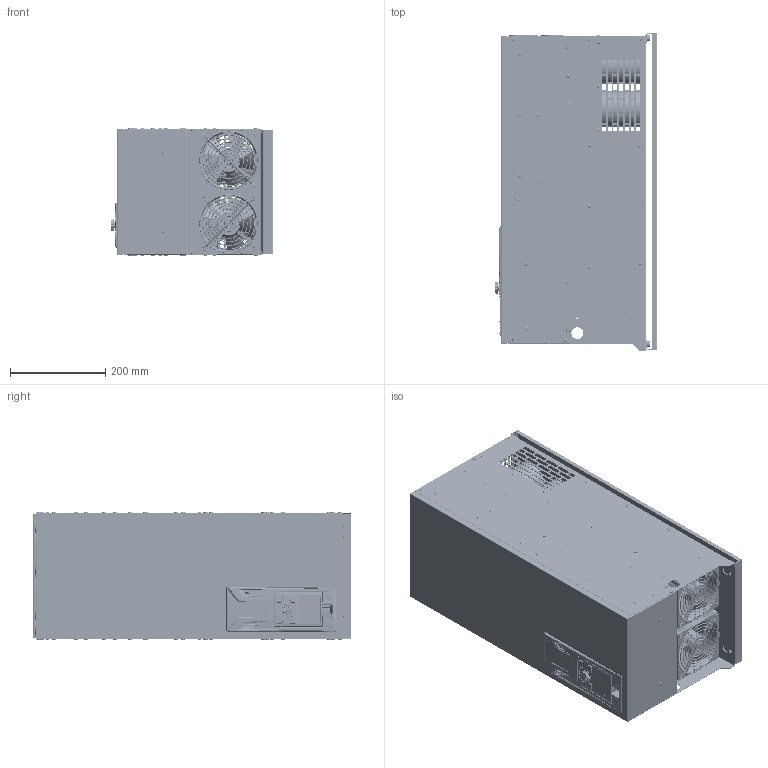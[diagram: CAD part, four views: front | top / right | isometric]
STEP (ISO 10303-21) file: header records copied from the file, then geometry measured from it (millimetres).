
FILE_DESCRIPTION((''),'2;1');
FILE_NAME('700-380-_55-75__ASM','2026-05-06T15:59:06',('23373'),(''),'CREO PARAMETRIC BY PTC INC, 2021023','CREO PARAMETRIC BY PTC INC, 2021023','');
FILE_SCHEMA(('AUTOMOTIVE_DESIGN { 1 0 10303 214 1 1 1 1 }'));
Products named in the file (163): CA700-55KW-SR-01_15; CA700-55KW-SR_ASM_6_ASM; CA700-55KW-BJ-01-01_27; CA700-55KW-BJ-01-01_ASM_23_ASM; CA700-55KW-BJ-01-02_20; S-M4-ZC_42; S-M6-ZC_42; CA700-55KW-BJ-01-02_ASM_12_ASM; CA700-55KW-BJ-01-03_18; SO-3R5M4-16-ZC_49; SO-3R5M3-26-ZC_49; SO-3R5M3-22-ZC_49; SO-M5-16-ZC_49; CA700-55KW-BJ-01-03_ASM_16_ASM; CA700-55KW-BJ-01-04_16; CA700-55KW-BJ-01-04_ASM_7_ASM; CA700-55KW-BJ-01-05_16; CA700-55KW-BJ-01-05_ASM_11_ASM; CA700-55KW-BJ-01-06_15; CA700-55KW-BJ-01-06_ASM_11_ASM; CA700-55KW-BJ-01-07_10; CA700-55KW-BJ-01-07_ASM_3_ASM; CA700-55KW-BJ-01-08_17; CA700-55KW-BJ-01-08_ASM_18_ASM; CA700-55KW-BJ-01-09_18; CA700-55KW-BJ-01-09_ASM_18_ASM; CA700-45KW-BJ-01-07_2; CA700-30KW-BJ-01-06_2; D4X8-GB12618-1990_3; CA700-55KW-BJ-01_ASM_32_ASM; CA700-55KW-BJ-02_20; S-M5-ZC_42; CA700-55KW-BJ-02_ASM_11_ASM; CA700-55KW-BJ-03_27; CA700-55KW-BJ-03_ASM_16_ASM; CA700-55KW-BJ-04_23; SO-3R5M3-6-ZC_49; CA700-55KW-BJ-04_ASM_17_ASM; CA700-55KW-BJ-05_9; CA700-55KW-BJ-05_ASM_9_ASM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
Assembly tree (384 placements, depth 9):
  700-380-_55-75__ASM
    0CA700-55KW_ASM_49_ASM
      CA700-55KW-SR_ASM_6_ASM
        CA700-55KW-SR-01_15
      CA700-55KW-BJ_ASM_43_ASM
        CA700-55KW-BJ-01_ASM_32_ASM
          CA700-55KW-BJ-01-01_ASM_23_ASM
            CA700-55KW-BJ-01-01_27
          CA700-55KW-BJ-01-02_ASM_12_ASM
            CA700-55KW-BJ-01-02_20
            S-M4-ZC_42  x2
            S-M6-ZC_42  x4
          CA700-55KW-BJ-01-03_ASM_16_ASM
            CA700-55KW-BJ-01-03_18
            S-M4-ZC_42  x12
            SO-3R5M4-16-ZC_49  x6
            SO-3R5M3-26-ZC_49  x3
            SO-3R5M3-22-ZC_49
            SO-M5-16-ZC_49  x2
          CA700-55KW-BJ-01-04_ASM_7_ASM  x2
            CA700-55KW-BJ-01-04_16
            S-M4-ZC_42
          CA700-55KW-BJ-01-05_ASM_11_ASM
            CA700-55KW-BJ-01-05_16
            S-M4-ZC_42  x3
          CA700-55KW-BJ-01-06_ASM_11_ASM
            CA700-55KW-BJ-01-06_15
            S-M4-ZC_42  x3
          CA700-55KW-BJ-01-07_ASM_3_ASM
            CA700-55KW-BJ-01-07_10
          CA700-55KW-BJ-01-08_ASM_18_ASM
            CA700-55KW-BJ-01-08_17
            S-M4-ZC_42  x3
          CA700-55KW-BJ-01-09_ASM_18_ASM
            CA700-55KW-BJ-01-09_18
            S-M4-ZC_42  x3
          CA700-45KW-BJ-01-07_2  x4
          CA700-30KW-BJ-01-06_2
          D4X8-GB12618-1990_3  x65
        CA700-55KW-BJ-02_ASM_11_ASM
          CA700-55KW-BJ-02_20
          S-M5-ZC_42  x8
          S-M6-ZC_42  x2
        CA700-55KW-BJ-03_ASM_16_ASM
          CA700-55KW-BJ-03_27
          S-M5-ZC_42  x12
          S-M6-ZC_42  x2
          S-M4-ZC_42
        CA700-55KW-BJ-04_ASM_17_ASM
          CA700-55KW-BJ-04_23
          S-M4-ZC_42
          SO-3R5M3-6-ZC_49  x3
        CA700-55KW-BJ-05_ASM_9_ASM
          CA700-55KW-BJ-05_9
          S-M4-ZC_42  x12
        CA700-55KW-BJ-06_ASM_6_ASM
          CA700-55KW-BJ-06_4
          S-M5-ZC_42  x4
        CA700-55KW-BJ-07_ASM_12_ASM
          CA700-55KW-BJ-07_20
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Bounding box: 339.73 x 667.7 x 268.4 mm (x, y, z)
Volume: 8749337.9 mm3; surface area: 6733324 mm2
Topology: 338 solids, 377 shells, 38618 faces, 105003 edges, 68700 vertices
Faces by surface type: plane 30785, cylinder 5358, cone 997, bspline 758, torus 296, extrusion 242, revolution 132, sphere 50
Entity records: 737422 total; most frequent: CARTESIAN_POINT 153388, ORIENTED_EDGE 98207, DIRECTION 89074, EDGE_CURVE 49173, VECTOR 37972, LINE 37730, VERTEX_POINT 31918, AXIS2_PLACEMENT_3D 25549
